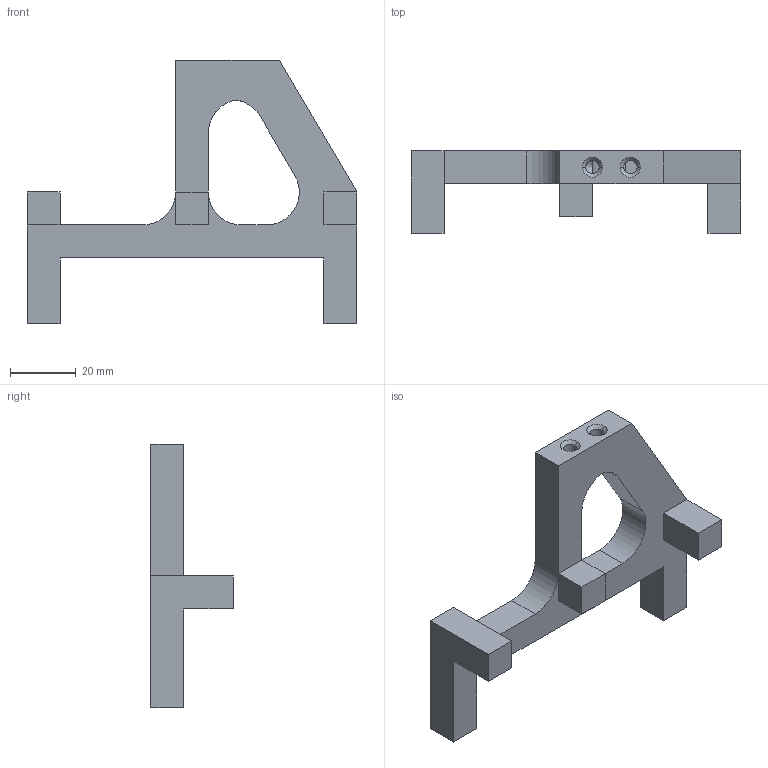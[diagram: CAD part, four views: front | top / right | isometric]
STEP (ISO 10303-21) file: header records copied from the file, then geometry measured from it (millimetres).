
FILE_DESCRIPTION (( 'STEP AP214' ), '1' );
FILE_NAME ('Base.STEP', '2016-12-17T20:58:38', ( '' ), ( '' ), 'SwSTEP 2.0', 'SolidWorks 2016', '' );
FILE_SCHEMA (( 'AUTOMOTIVE_DESIGN' ));
Length unit declared in the file: millimetre
Products named in the file (1): Base
Bounding box: 100 x 25 x 80 mm (x, y, z)
Volume: 33637.3 mm3; surface area: 13039.9 mm2
Topology: 1 solids, 1 shells, 43 faces, 119 edges, 75 vertices
Faces by surface type: plane 29, cylinder 9, cone 5
Entity records: 1524 total; most frequent: CARTESIAN_POINT 335, ORIENTED_EDGE 236, DIRECTION 222, EDGE_CURVE 118, VECTOR 94, LINE 94, VERTEX_POINT 75, AXIS2_PLACEMENT_3D 64
